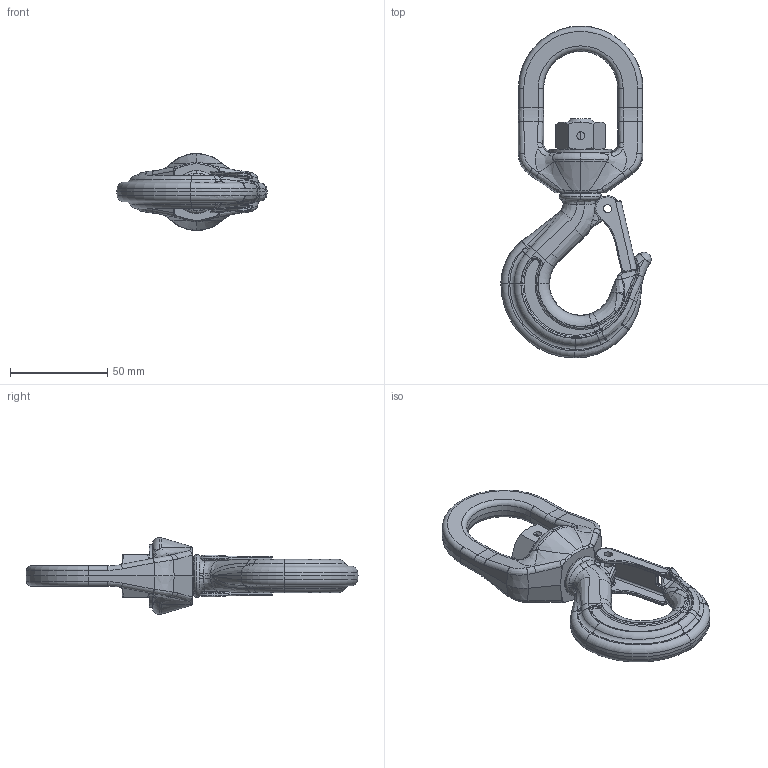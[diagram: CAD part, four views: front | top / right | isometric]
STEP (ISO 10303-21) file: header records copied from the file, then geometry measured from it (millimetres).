
FILE_DESCRIPTION(('STEP AP214'),'1');
FILE_NAME('c7g0125.stp','2021-06-21T14:51:10',('TraceParts'),('TraceParts S.A.'),'Spatial InterOp 3D',' ',' ');
FILE_SCHEMA(('AUTOMOTIVE_DESIGN { 1 0 10303 214 1 1 1 1 }'));
Length unit declared in the file: millimetre
Products named in the file (1): c7g0125_1
Bounding box: 77.2 x 170.5 x 39.5 mm (x, y, z)
Volume: 97325.3 mm3; surface area: 30629.5 mm2
Topology: 5 solids, 5 shells, 729 faces, 1757 edges, 1040 vertices
Faces by surface type: bspline 331, plane 126, cylinder 123, torus 77, cone 72
Full cylindrical faces by diameter (mm): 4 x2
Entity records: 52392 total; most frequent: CARTESIAN_POINT 37206, ORIENTED_EDGE 3502, DIRECTION 2786, EDGE_CURVE 1751, AXIS2_PLACEMENT_3D 1160, VERTEX_POINT 1040, EDGE_LOOP 751, ADVANCED_FACE 729
